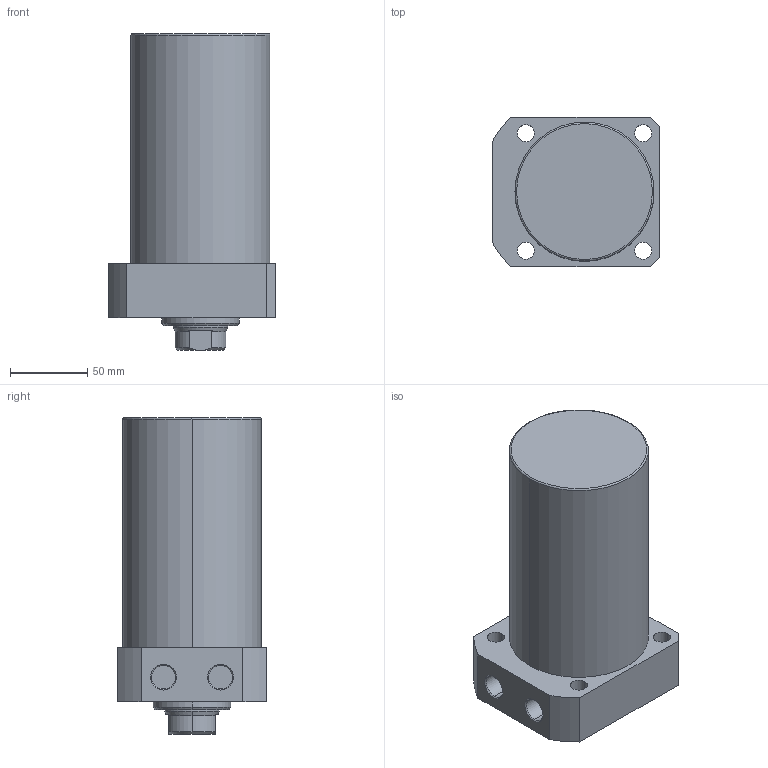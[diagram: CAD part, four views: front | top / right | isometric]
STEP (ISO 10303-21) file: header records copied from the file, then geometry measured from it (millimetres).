
FILE_DESCRIPTION (( 'STEP AP203' ), '1' );
FILE_NAME ('CLLR-090CA-105.STEP', '2019-12-18T06:25:30', ( '' ), ( '' ), 'SwSTEP 2.0', 'SolidWorks 2015', '' );
FILE_SCHEMA (( 'CONFIG_CONTROL_DESIGN' ));
Length unit declared in the file: millimetre
Products named in the file (1): CLLR-090CA-105
Bounding box: 108 x 97 x 205 mm (x, y, z)
Volume: 1296802.5 mm3; surface area: 87216.2 mm2
Topology: 1 solids, 1 shells, 65 faces, 151 edges, 94 vertices
Faces by surface type: cylinder 29, plane 19, cone 15, torus 2
Entity records: 1977 total; most frequent: CARTESIAN_POINT 357, DIRECTION 350, ORIENTED_EDGE 298, EDGE_CURVE 149, AXIS2_PLACEMENT_3D 143, VERTEX_POINT 94, EDGE_LOOP 81, CIRCLE 77
